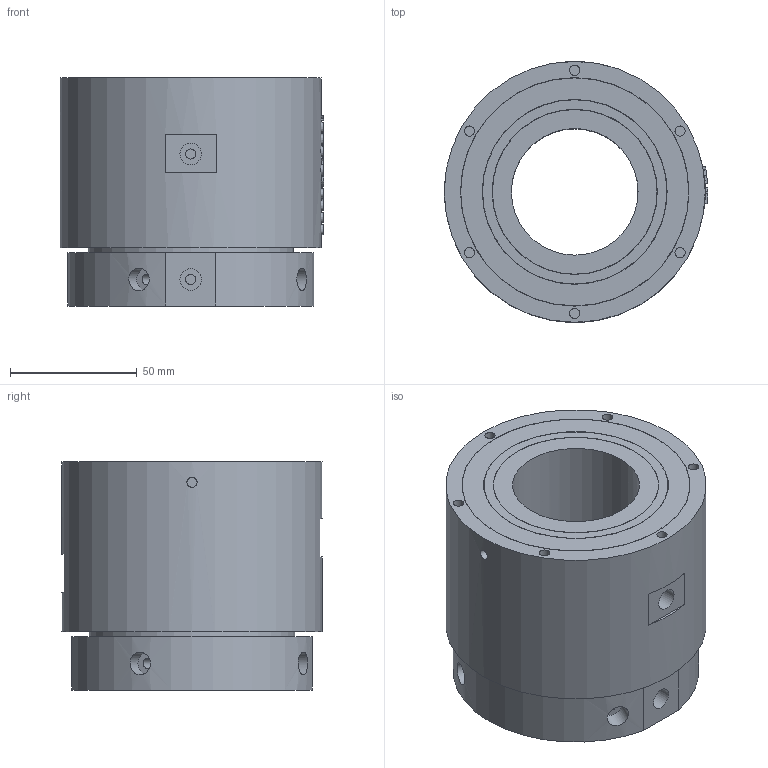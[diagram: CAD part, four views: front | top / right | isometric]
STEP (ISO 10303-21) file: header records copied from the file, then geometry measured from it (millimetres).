
FILE_DESCRIPTION(/* description */ (''),/* implementation_level */ '2;1');
FILE_NAME(/* name */ 'HQ0201D50.stp',/* time_stamp */ '2024-07-06T08:45:08+08:00',/* author */ (''),/* organization */ (''),/* preprocessor_version */ 'ST-DEVELOPER v16.7',/* originating_system */ 'SIEMENS PLM Software NX 12.0',/* authorisation */ '');
FILE_SCHEMA (('AUTOMOTIVE_DESIGN { 1 0 10303 214 3 1 1 1 }'));
Length unit declared in the file: millimetre
Products named in the file (1): 861338CC9A5A6e1f
Bounding box: 104 x 103 x 90 mm (x, y, z)
Volume: 537975.1 mm3; surface area: 68389.3 mm2
Topology: 1 solids, 1 shells, 401 faces, 980 edges, 656 vertices
Faces by surface type: plane 163, extrusion 157, cylinder 54, bspline 27
Full cylindrical faces by diameter (mm): 4 x14, 4.2 x6, 7 x4, 8.5 x4, 8.875 x4, 50 x1, 65 x1, 65.2 x1, 72.77 x1, 72.97 x1, 81 x1, 90 x1, 90.2 x1, 103 x1
Entity records: 17471 total; most frequent: CARTESIAN_POINT 8897, ORIENTED_EDGE 1844, DIRECTION 1271, EDGE_CURVE 922, VERTEX_POINT 646, B_SPLINE_CURVE_WITH_KNOTS 548, VECTOR 541, EDGE_LOOP 534
